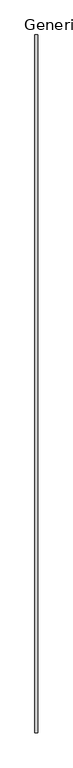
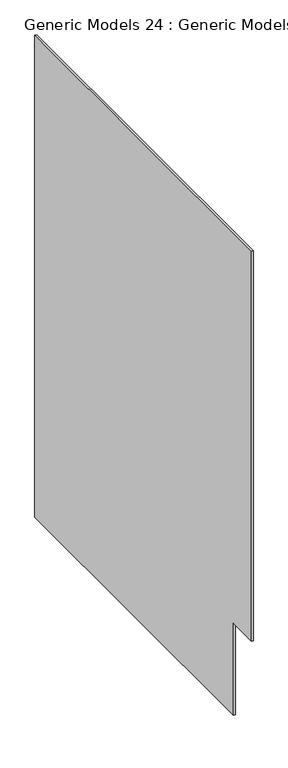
"""IFC4 building model written with IfcOpenShell, lengths in millimetres: proxy geometry, Generic Models 24 : Generic Models 18."""

from ifc_helpers import new_model, si_unit, frame, origin, place, context, project, spatial, polyline, outline, extrude, source, transform, mapped, element, save


def generic_models_24_generic_models_18_24982d96(model_context):
    return source(origin(), model_context, "Body", "SweptSolid", [
        extrude(outline(polyline([(7786.4319424, 15723.9), (7786.4319424, 0.0), (-2849.4449025, 0.0), (-2849.4449025, 3000.0), (-3813.5680576, 3000.0), (-3813.5680576, 15723.9), (7786.4319424, 15723.9)])), frame((-11468.5171482, 0.0, 0.0), z_axis=(1.0, 0.0, 0.0), x_axis=(0.0, 1.0, 0.0)), (0.0, 0.0, 1.0), 50.0),
    ])


if __name__ == "__main__":
    model = new_model("IFC4")
    model_context = context("Model", 3, world=origin())
    ifc_project = project(units=[si_unit("LENGTHUNIT", "METRE", prefix="MILLI")], contexts=[model_context])
    site = spatial("IfcSite", under=ifc_project)
    building = spatial("IfcBuilding", under=site)
    placement = place(None, origin())
    generic_models_24_generic_models_18_shape = generic_models_24_generic_models_18_24982d96(model_context)
    element("IfcBuildingElementProxy", 1, Name="Generic Models 24 : Generic Models 18", ObjectType="Generic Models 24 : Generic Models 18", at=placement, inside=building, context=model_context, shape_type="MappedRepresentation", body=[
        mapped(generic_models_24_generic_models_18_shape, transform((0.0, 0.0, 0.0), x_axis=(1.0, 0.0, 0.0), y_axis=(0.0, 1.0, 0.0), z_axis=(0.0, 0.0, 1.0))),
    ])
    save(model, "model.ifc")
